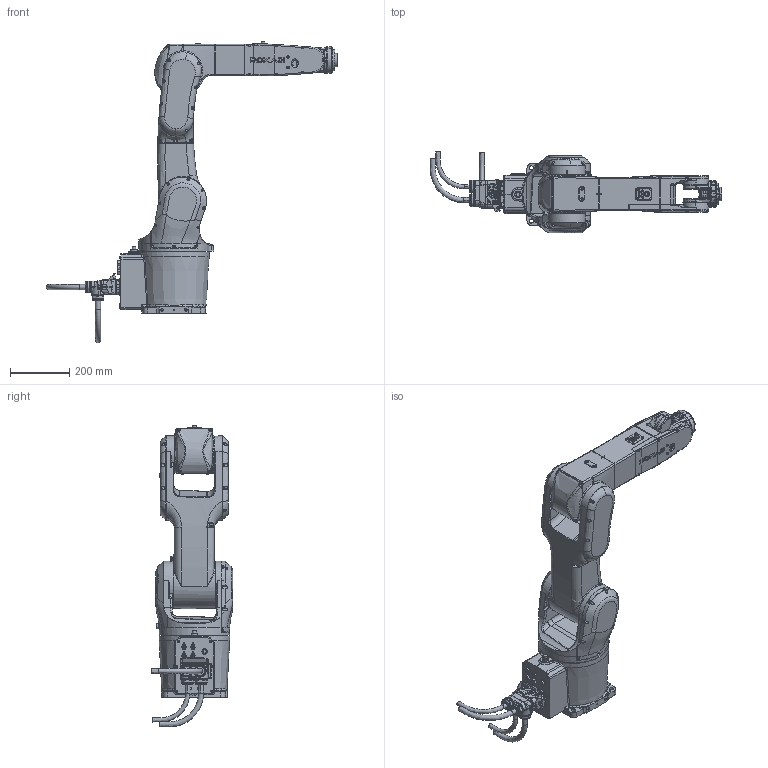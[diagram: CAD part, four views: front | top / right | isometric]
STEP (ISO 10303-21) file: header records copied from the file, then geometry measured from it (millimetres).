
FILE_DESCRIPTION(/* description */ (''),/* implementation_level */ '2;1');
FILE_NAME(/* name */ 'XB7h-R906_stp.stp',/* time_stamp */ '2020-04-16T13:13:01+08:00',/* author */ (''),/* organization */ (''),/* preprocessor_version */ 'ST-DEVELOPER v16',/* originating_system */ 'SIEMENS PLM Software NX 10.0',/* authorisation */ '');
FILE_SCHEMA (('CONFIG_CONTROL_DESIGN'));
Products named in the file (8): XB7h-R906-6; XB7h-R906-5; XB7h-R906-4; XB7h-R906-3; XB7h-R906-2; XB7h-R906-1; XB7h-R906-base; XB7h-R906_stp_stp
Assembly tree (7 placements, depth 2):
  XB7h-R906_stp_stp
    XB7h-R906-base
    XB7h-R906-1
    XB7h-R906-2
    XB7h-R906-3
    XB7h-R906-4
    XB7h-R906-5
    XB7h-R906-6
Bounding box: 984.15 x 275.88 x 1018.55 mm (x, y, z)
Volume: 33512336.8 mm3; surface area: 1525995.5 mm2
Topology: 10 solids, 45 shells, 4546 faces, 11036 edges, 6705 vertices
Faces by surface type: cylinder 1331, plane 1276, bspline 1050, torus 355, cone 324, extrusion 134, sphere 76
Full cylindrical faces by diameter (mm): 3.3 x6, 4.2 x5, 4.826 x1, 5 x2, 5.5 x55, 6 x2, 7 x20, 8.5 x10, 9.5 x3, 9.6 x1, 10 x4, 10.701 x2, 12.8 x1, 13 x1, 13.5 x4, 15 x6, 17.5 x2, 18.5 x1, 22 x1, 50 x2, 55 x1, 86 x2, 100 x2, 119 x1, 120 x1, 170 x1
Entity records: 198883 total; most frequent: CARTESIAN_POINT 104921, ORIENTED_EDGE 21126, DIRECTION 16213, EDGE_CURVE 10563, AXIS2_PLACEMENT_3D 6694, VERTEX_POINT 6606, EDGE_LOOP 5101, ADVANCED_FACE 4536
